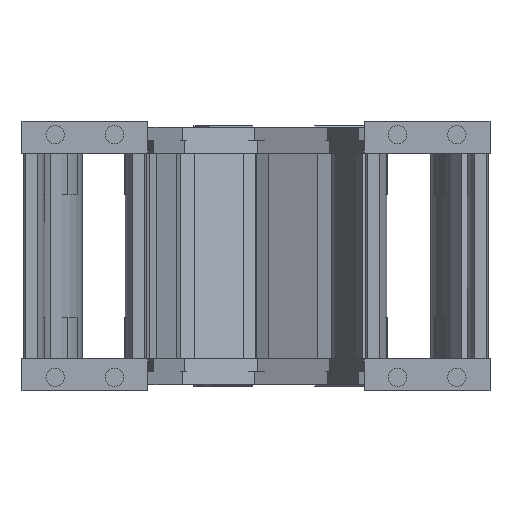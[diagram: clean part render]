
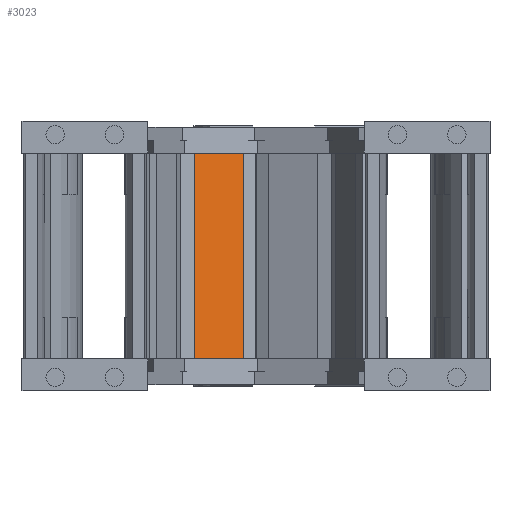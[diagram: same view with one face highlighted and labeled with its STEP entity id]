
A CAD part, left-side view. The second image highlights one B-rep face of the part: STEP entity #3023.
In plain terms, the highlighted planar face has unit normal (-0.925, -0.381, 0) as drawn and (0, 1, 0) by its records, which use the part's own axes.
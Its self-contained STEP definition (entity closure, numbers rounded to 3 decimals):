
#2766=DIRECTION('',(1.,0.,0.));
#2767=VECTOR('',#2766,23.);
#2768=CARTESIAN_POINT('',(-11.5,3.,77.7));
#2769=LINE('',#2768,#2767);
#2815=DIRECTION('',(0.,0.,-1.));
#2816=VECTOR('',#2815,90.2);
#2817=CARTESIAN_POINT('',(11.5,3.,77.7));
#2818=LINE('',#2817,#2816);
#2837=DIRECTION('',(-1.,0.,0.));
#2838=VECTOR('',#2837,23.);
#2839=CARTESIAN_POINT('',(11.5,3.,-12.5));
#2840=LINE('',#2839,#2838);
#2851=DIRECTION('',(0.,0.,-1.));
#2852=VECTOR('',#2851,90.2);
#2853=CARTESIAN_POINT('',(-11.5,3.,77.7));
#2854=LINE('',#2853,#2852);
#2878=CARTESIAN_POINT('',(11.5,3.,77.7));
#2879=VERTEX_POINT('',#2878);
#2882=CARTESIAN_POINT('',(-11.5,3.,77.7));
#2883=VERTEX_POINT('',#2882);
#2890=CARTESIAN_POINT('',(11.5,3.,-12.5));
#2891=VERTEX_POINT('',#2890);
#2892=CARTESIAN_POINT('',(-11.5,3.,-12.5));
#2893=VERTEX_POINT('',#2892);
#3011=CARTESIAN_POINT('',(15.5,3.,27.7));
#3012=DIRECTION('',(0.,1.,0.));
#3013=DIRECTION('',(-1.,0.,0.));
#3014=AXIS2_PLACEMENT_3D('',#3011,#3012,#3013);
#3015=PLANE('',#3014);
#3017=ORIENTED_EDGE('',*,*,#3016,.T.);
#3018=ORIENTED_EDGE('',*,*,#2995,.F.);
#3019=ORIENTED_EDGE('',*,*,#2975,.F.);
#3020=ORIENTED_EDGE('',*,*,#2907,.F.);
#3021=EDGE_LOOP('',(#3017,#3018,#3019,#3020));
#3022=FACE_OUTER_BOUND('',#3021,.F.);
#3023=ADVANCED_FACE('',(#3022),#3015,.T.);
#2907=EDGE_CURVE('',#2883,#2879,#2769,.T.);
#2975=EDGE_CURVE('',#2879,#2891,#2818,.T.);
#2995=EDGE_CURVE('',#2891,#2893,#2840,.T.);
#3016=EDGE_CURVE('',#2883,#2893,#2854,.T.);
